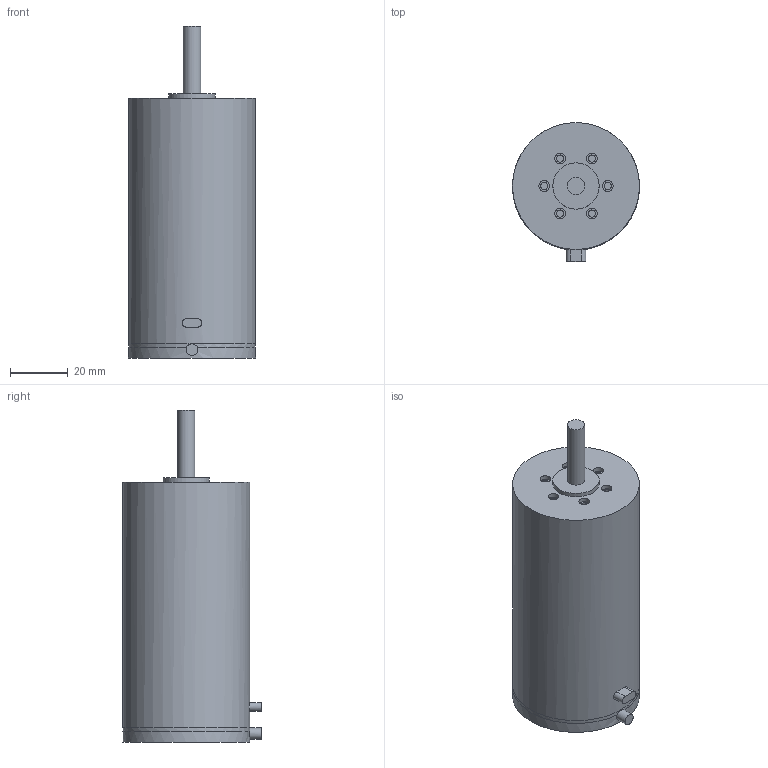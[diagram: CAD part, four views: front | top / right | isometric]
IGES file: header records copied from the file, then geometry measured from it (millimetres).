
Global section: file name: No Iges File Name specified; native system: Autodesk Inventor 2012; preprocessor: AutoDesk Inventor Iges Exporter R2012; author: mangiullo; date: 20130920.111814; units: millimetre
Bounding box: 44 x 48 x 115 mm (x, y, z)
Volume: 137700.5 mm3; surface area: 16457.4 mm2
Topology: 1 solids, 1 shells, 40 faces, 79 edges, 55 vertices
Faces by surface type: plane 20, revolution 12, cylinder 8
Full cylindrical faces by diameter (mm): 4 x1, 6 x1, 16 x1, 44 x3
